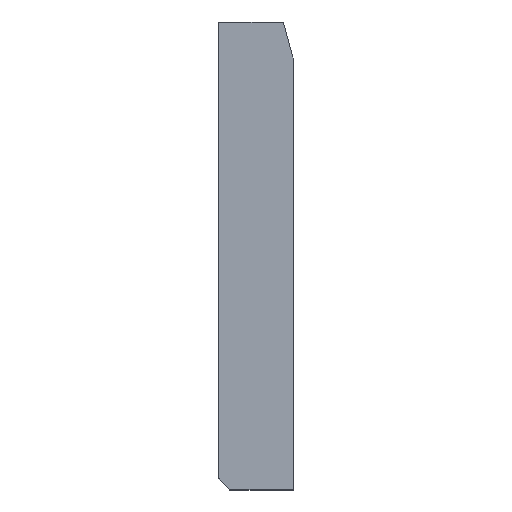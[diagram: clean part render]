
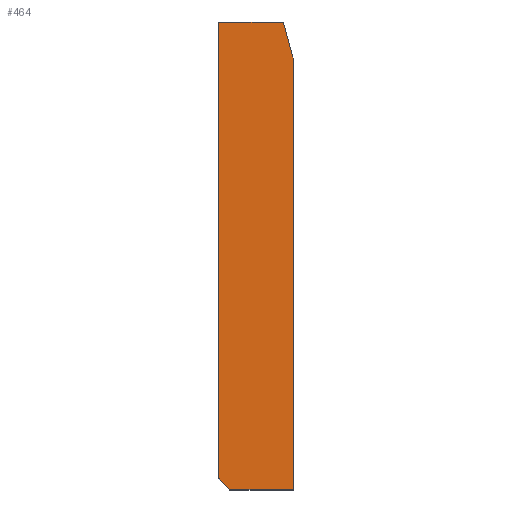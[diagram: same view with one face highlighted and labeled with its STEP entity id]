
A CAD part, top view. The second image highlights one B-rep face of the part: STEP entity #464.
In plain terms, the highlighted planar face has unit normal (0, 0, 1).
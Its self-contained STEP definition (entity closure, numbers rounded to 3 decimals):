
#70=CARTESIAN_POINT('Vertex',(0.,3.,62.5)) ;
#73=CARTESIAN_POINT('Line Origine',(0.,64.,62.5)) ;
#77=CARTESIAN_POINT('Vertex',(0.,125.,62.5)) ;
#402=CARTESIAN_POINT('Vertex',(3.,0.,62.5)) ;
#405=CARTESIAN_POINT('Line Origine',(1.5,1.5,62.5)) ;
#417=CARTESIAN_POINT('Axis2P3D Location',(15.,114.342,62.5)) ;
#422=CARTESIAN_POINT('Line Origine',(11.5,0.,62.5)) ;
#426=CARTESIAN_POINT('Vertex',(20.,0.,62.5)) ;
#429=CARTESIAN_POINT('Line Origine',(20.,57.171,62.5)) ;
#433=CARTESIAN_POINT('Vertex',(20.,114.342,62.5)) ;
#436=CARTESIAN_POINT('Axis2P3D Location',(15.,114.342,62.5)) ;
#440=CARTESIAN_POINT('Vertex',(19.83,115.636,62.5)) ;
#443=CARTESIAN_POINT('Line Origine',(18.575,120.318,62.5)) ;
#447=CARTESIAN_POINT('Vertex',(17.321,125.,62.5)) ;
#450=CARTESIAN_POINT('Line Origine',(8.66,125.,62.5)) ;
#74=DIRECTION('Vector Direction',(0.,-1.,0.)) ;
#406=DIRECTION('Vector Direction',(0.707,-0.707,0.)) ;
#418=DIRECTION('Axis2P3D Direction',(0.,0.,1.)) ;
#419=DIRECTION('Axis2P3D XDirection',(1.,0.,-0.)) ;
#423=DIRECTION('Vector Direction',(1.,0.,0.)) ;
#430=DIRECTION('Vector Direction',(0.,1.,0.)) ;
#437=DIRECTION('Axis2P3D Direction',(0.,0.,1.)) ;
#444=DIRECTION('Vector Direction',(-0.259,0.966,0.)) ;
#451=DIRECTION('Vector Direction',(-1.,0.,0.)) ;
#420=AXIS2_PLACEMENT_3D('Plane Axis2P3D',#417,#418,#419) ;
#438=AXIS2_PLACEMENT_3D('Circle Axis2P3D',#436,#437,$) ;
#456=ORIENTED_EDGE('',*,*,#79,.T.) ;
#457=ORIENTED_EDGE('',*,*,#409,.T.) ;
#458=ORIENTED_EDGE('',*,*,#428,.T.) ;
#459=ORIENTED_EDGE('',*,*,#435,.T.) ;
#460=ORIENTED_EDGE('',*,*,#442,.T.) ;
#461=ORIENTED_EDGE('',*,*,#449,.T.) ;
#462=ORIENTED_EDGE('',*,*,#454,.T.) ;
#75=VECTOR('Line Direction',#74,1.) ;
#407=VECTOR('Line Direction',#406,1.) ;
#424=VECTOR('Line Direction',#423,1.) ;
#431=VECTOR('Line Direction',#430,1.) ;
#445=VECTOR('Line Direction',#444,1.) ;
#452=VECTOR('Line Direction',#451,1.) ;
#464=ADVANCED_FACE('A915-125X125',(#463),#421,.T.) ;
#439=CIRCLE('generated circle',#438,5.) ;
#79=EDGE_CURVE('',#78,#71,#76,.T.) ;
#409=EDGE_CURVE('',#71,#403,#408,.T.) ;
#428=EDGE_CURVE('',#403,#427,#425,.T.) ;
#435=EDGE_CURVE('',#427,#434,#432,.T.) ;
#442=EDGE_CURVE('',#434,#441,#439,.T.) ;
#449=EDGE_CURVE('',#441,#448,#446,.T.) ;
#454=EDGE_CURVE('',#448,#78,#453,.T.) ;
#455=EDGE_LOOP('',(#456,#457,#458,#459,#460,#461,#462)) ;
#463=FACE_OUTER_BOUND('',#455,.T.) ;
#76=LINE('Line',#73,#75) ;
#408=LINE('Line',#405,#407) ;
#425=LINE('Line',#422,#424) ;
#432=LINE('Line',#429,#431) ;
#446=LINE('Line',#443,#445) ;
#453=LINE('Line',#450,#452) ;
#421=PLANE('Plane',#420) ;
#71=VERTEX_POINT('',#70) ;
#78=VERTEX_POINT('',#77) ;
#403=VERTEX_POINT('',#402) ;
#427=VERTEX_POINT('',#426) ;
#434=VERTEX_POINT('',#433) ;
#441=VERTEX_POINT('',#440) ;
#448=VERTEX_POINT('',#447) ;
